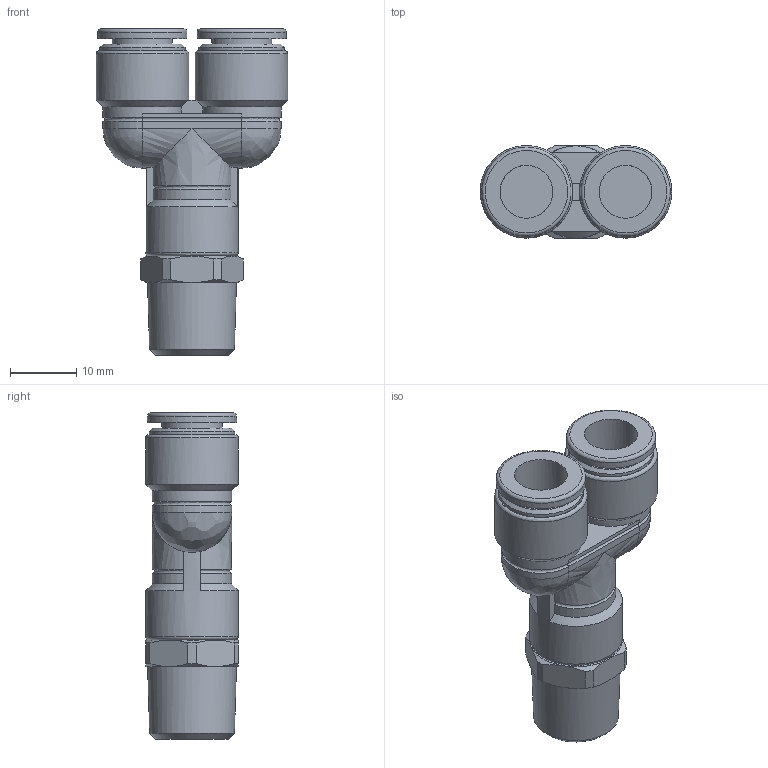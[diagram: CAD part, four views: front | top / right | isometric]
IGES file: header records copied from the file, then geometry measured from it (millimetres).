
Global section: file name: [09] FS8-02MY FS8-02MYW; native system: Autodesk Inventor 2014; preprocessor: unknown; author: kazuhiro.t; date: 20130806.165624; units: millimetre
Bounding box: 29 x 14 x 49.4 mm (x, y, z)
Volume: 8282.5 mm3; surface area: 4444.9 mm2
Topology: 1 solids, 1 shells, 92 faces, 212 edges, 128 vertices
Faces by surface type: bspline 92
